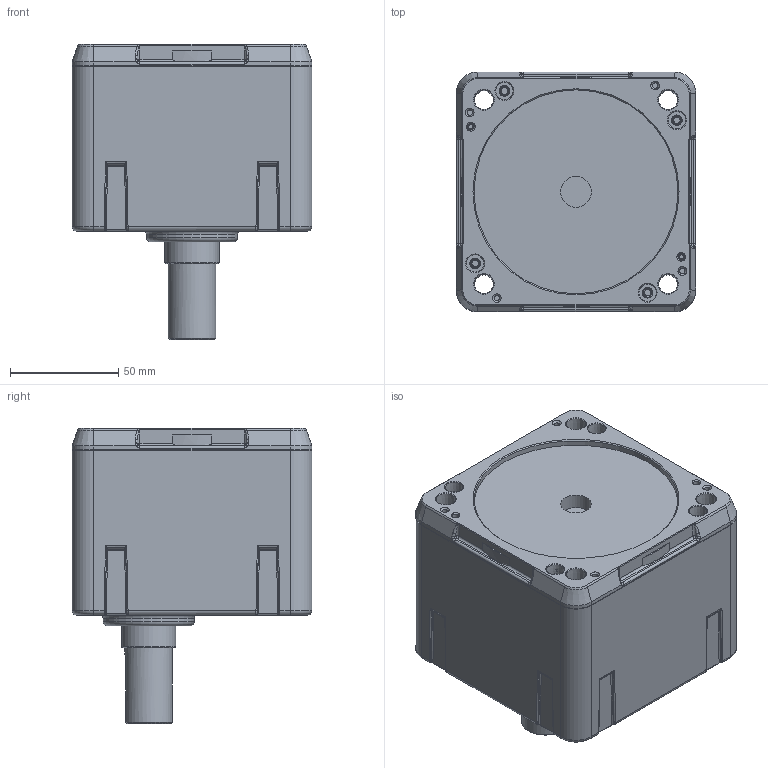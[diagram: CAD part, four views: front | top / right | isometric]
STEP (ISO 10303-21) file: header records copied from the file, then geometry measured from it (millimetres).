
FILE_DESCRIPTION((''),'2;1');
FILE_NAME('C:\Users\LEEKA\Desktop\110각 감속기 3D(STEP)\K10H100~200BU.stp','2017-04-05T13:58:02',('LEEKA'),(''),'Autodesk Inventor 2012','Autodesk Inventor 2012','');
FILE_SCHEMA(('AUTOMOTIVE_DESIGN { 1 0 10303 214 1 1 1 1 }'));
Length unit declared in the file: millimetre
Products named in the file (3): K10H100~200BU; CASE(H)-STEP; COVER-STEP
Assembly tree (2 placements, depth 2):
  K10H100~200BU
    CASE(H)-STEP
    COVER-STEP
Bounding box: 110.5 x 110.5 x 136 mm (x, y, z)
Volume: 1000517.4 mm3; surface area: 102487.5 mm2
Topology: 2 solids, 3 shells, 534 faces, 1263 edges, 726 vertices
Faces by surface type: cylinder 190, plane 127, bspline 120, cone 68, torus 21, sphere 8
Full cylindrical faces by diameter (mm): 2.459 x4, 3 x2, 4.917 x1, 14.244 x1, 22 x1, 25 x1, 27 x1, 34 x1, 42 x1, 94 x1, 100 x1
Entity records: 17649 total; most frequent: CARTESIAN_POINT 6109, DIRECTION 2382, ORIENTED_EDGE 2266, EDGE_CURVE 1133, AXIS2_PLACEMENT_3D 978, VERTEX_POINT 709, EDGE_LOOP 676, FACE_OUTER_BOUND 534
